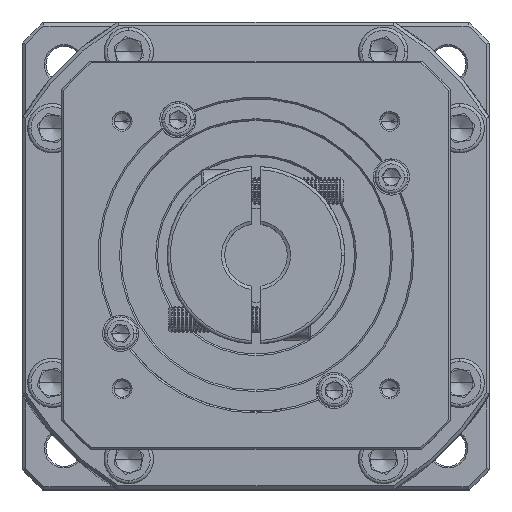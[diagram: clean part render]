
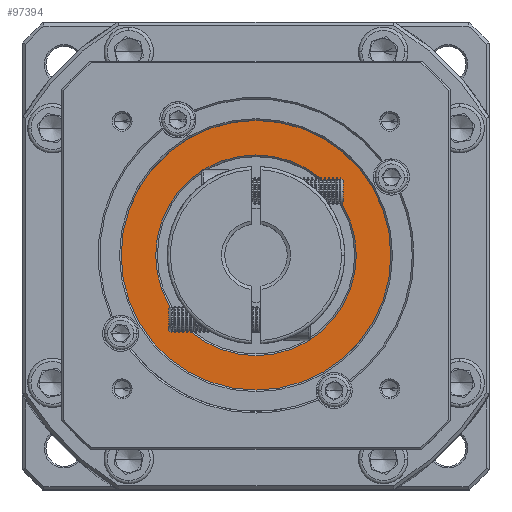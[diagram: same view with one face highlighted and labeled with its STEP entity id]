
A CAD part, top view. The second image highlights one B-rep face of the part: STEP entity #97394.
In plain terms, the highlighted planar face has unit normal (0, 0, 1).
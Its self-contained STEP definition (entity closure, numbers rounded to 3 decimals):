
#1968 = CIRCLE ( 'NONE', #88541, 41. ) ;
#9868 = DIRECTION ( 'NONE',  ( 0., 0., -1. ) ) ;
#13893 = VERTEX_POINT ( 'NONE', #80008 ) ;
#17820 = DIRECTION ( 'NONE',  ( 0., 0., 1. ) ) ;
#21921 = CIRCLE ( 'NONE', #94351, 30.5 ) ;
#22648 = AXIS2_PLACEMENT_3D ( 'NONE', #127938, #17820, #68306 ) ;
#22698 = VERTEX_POINT ( 'NONE', #104093 ) ;
#22774 = VERTEX_POINT ( 'NONE', #24921 ) ;
#23016 = PLANE ( 'NONE',  #121655 ) ;
#24921 = CARTESIAN_POINT ( 'NONE',  ( -78.741, -4.487, 350.3 ) ) ;
#29018 = CARTESIAN_POINT ( 'NONE',  ( -37.741, -4.487, 350.3 ) ) ;
#36969 = FACE_OUTER_BOUND ( 'NONE', #58976, .T. ) ;
#53960 = CIRCLE ( 'NONE', #22648, 41. ) ;
#54096 = FACE_BOUND ( 'NONE', #88155, .T. ) ;
#58976 = EDGE_LOOP ( 'NONE', ( #88535, #105161 ) ) ;
#62600 = CARTESIAN_POINT ( 'NONE',  ( -37.741, -4.487, 350.3 ) ) ;
#68306 = DIRECTION ( 'NONE',  ( 1., 0., 0. ) ) ;
#68645 = DIRECTION ( 'NONE',  ( 1., 0., 0. ) ) ;
#72033 = CARTESIAN_POINT ( 'NONE',  ( -37.741, -4.487, 350.3 ) ) ;
#72534 = EDGE_CURVE ( 'NONE', #22698, #116697, #21921, .T. ) ;
#72879 = ORIENTED_EDGE ( 'NONE', *, *, #72534, .T. ) ;
#74558 = ORIENTED_EDGE ( 'NONE', *, *, #117202, .T. ) ;
#80008 = CARTESIAN_POINT ( 'NONE',  ( 3.259, -4.487, 350.3 ) ) ;
#81189 = DIRECTION ( 'NONE',  ( 1., 0., 0. ) ) ;
#81633 = DIRECTION ( 'NONE',  ( 0., 0., -1. ) ) ;
#82848 = DIRECTION ( 'NONE',  ( 0., 0., 1. ) ) ;
#84552 = EDGE_CURVE ( 'NONE', #22774, #13893, #53960, .T. ) ;
#88155 = EDGE_LOOP ( 'NONE', ( #74558, #72879 ) ) ;
#88535 = ORIENTED_EDGE ( 'NONE', *, *, #110646, .T. ) ;
#88541 = AXIS2_PLACEMENT_3D ( 'NONE', #72033, #82848, #112890 ) ;
#91965 = AXIS2_PLACEMENT_3D ( 'NONE', #122083, #81633, #81189 ) ;
#94351 = AXIS2_PLACEMENT_3D ( 'NONE', #29018, #9868, #68645 ) ;
#94369 = DIRECTION ( 'NONE',  ( 1., 0., 0. ) ) ;
#97394 = ADVANCED_FACE ( 'NONE', ( #36969, #54096 ), #23016, .T. ) ;
#104093 = CARTESIAN_POINT ( 'NONE',  ( -68.241, -4.487, 350.3 ) ) ;
#105161 = ORIENTED_EDGE ( 'NONE', *, *, #84552, .T. ) ;
#107974 = CIRCLE ( 'NONE', #91965, 30.5 ) ;
#110646 = EDGE_CURVE ( 'NONE', #13893, #22774, #1968, .T. ) ;
#112890 = DIRECTION ( 'NONE',  ( 1., 0., 0. ) ) ;
#113089 = DIRECTION ( 'NONE',  ( 0., 0., 1. ) ) ;
#116697 = VERTEX_POINT ( 'NONE', #119419 ) ;
#117202 = EDGE_CURVE ( 'NONE', #116697, #22698, #107974, .T. ) ;
#119419 = CARTESIAN_POINT ( 'NONE',  ( -7.241, -4.487, 350.3 ) ) ;
#121655 = AXIS2_PLACEMENT_3D ( 'NONE', #62600, #113089, #94369 ) ;
#122083 = CARTESIAN_POINT ( 'NONE',  ( -37.741, -4.487, 350.3 ) ) ;
#127938 = CARTESIAN_POINT ( 'NONE',  ( -37.741, -4.487, 350.3 ) ) ;
